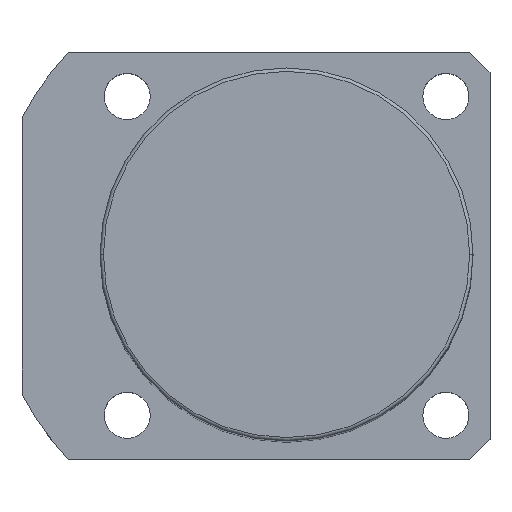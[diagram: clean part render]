
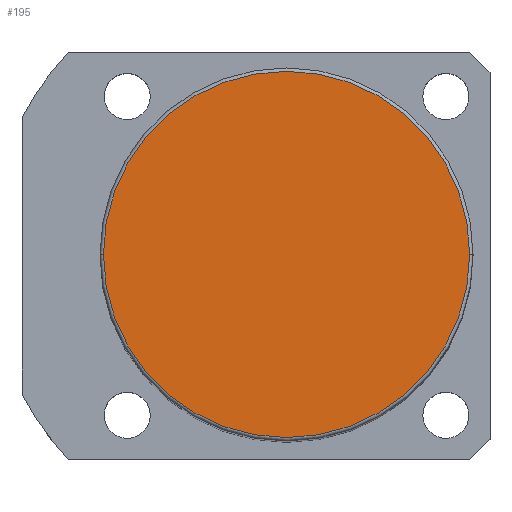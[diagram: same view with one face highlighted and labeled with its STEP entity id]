
A CAD part, top view. The second image highlights one B-rep face of the part: STEP entity #195.
In plain terms, the highlighted planar face has unit normal (0, 0, 1).
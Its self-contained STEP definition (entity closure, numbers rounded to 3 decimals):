
#17 = CIRCLE ( 'NONE', #628, 27. ) ;
#153 = EDGE_CURVE ( 'NONE', #1595, #1143, #1058, .T. ) ;
#195 = ADVANCED_FACE ( 'NONE', ( #309 ), #1518, .T. ) ;
#208 = CARTESIAN_POINT ( 'NONE',  ( 0., 0., 131. ) ) ;
#309 = FACE_OUTER_BOUND ( 'NONE', #1568, .T. ) ;
#628 = AXIS2_PLACEMENT_3D ( 'NONE', #208, #1631, #941 ) ;
#663 = CARTESIAN_POINT ( 'NONE',  ( 0., 0., 131. ) ) ;
#670 = ORIENTED_EDGE ( 'NONE', *, *, #977, .T. ) ;
#760 = AXIS2_PLACEMENT_3D ( 'NONE', #1095, #1504, #1354 ) ;
#814 = DIRECTION ( 'NONE',  ( 1., 0., 0. ) ) ;
#941 = DIRECTION ( 'NONE',  ( 1., 0., 0. ) ) ;
#977 = EDGE_CURVE ( 'NONE', #1143, #1595, #17, .T. ) ;
#1058 = CIRCLE ( 'NONE', #1230, 27. ) ;
#1095 = CARTESIAN_POINT ( 'NONE',  ( 0., 0., 131. ) ) ;
#1143 = VERTEX_POINT ( 'NONE', #1695 ) ;
#1218 = ORIENTED_EDGE ( 'NONE', *, *, #153, .T. ) ;
#1230 = AXIS2_PLACEMENT_3D ( 'NONE', #663, #1645, #814 ) ;
#1352 = CARTESIAN_POINT ( 'NONE',  ( 27., 0., 131. ) ) ;
#1354 = DIRECTION ( 'NONE',  ( 1., 0., 0. ) ) ;
#1504 = DIRECTION ( 'NONE',  ( 0., 0., 1. ) ) ;
#1518 = PLANE ( 'NONE',  #760 ) ;
#1568 = EDGE_LOOP ( 'NONE', ( #1218, #670 ) ) ;
#1595 = VERTEX_POINT ( 'NONE', #1352 ) ;
#1631 = DIRECTION ( 'NONE',  ( 0., 0., 1. ) ) ;
#1645 = DIRECTION ( 'NONE',  ( 0., 0., 1. ) ) ;
#1695 = CARTESIAN_POINT ( 'NONE',  ( -27., 0., 131. ) ) ;
